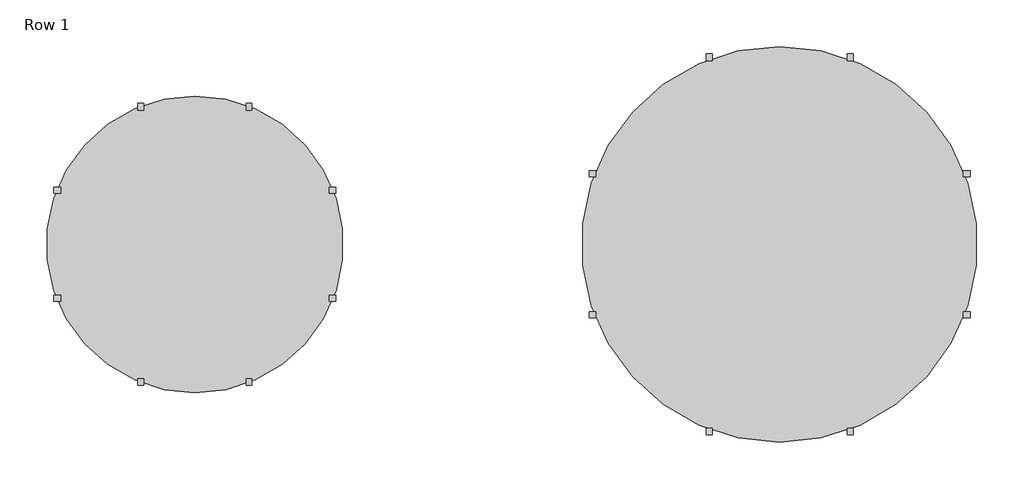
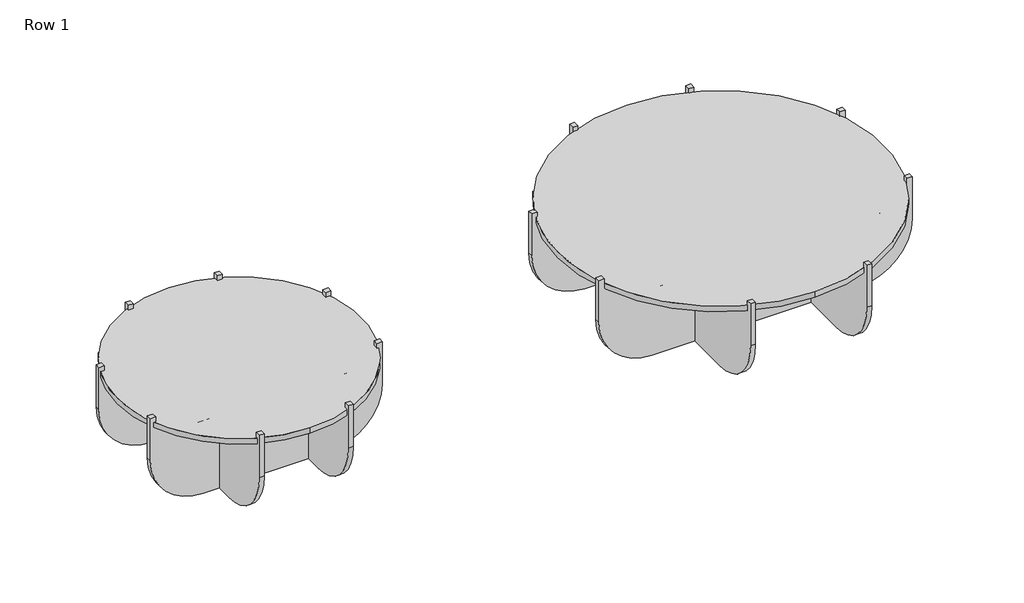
# One storey: 2 furniture elements.
"""IFC4 building model written with IfcOpenShell, lengths in millimetres."""

import ifcopenshell
import ifcopenshell.guid

model = None  # the IFC model being written
_history = None  # IfcOwnerHistory: only IFC2X3 demands one
_inside = {}  # id of a spatial element -> (the spatial element, [elements in it])
_under = {}  # id of a project, library or spatial element -> (it, [spatial elements below it])
_declared = {}  # id of a project -> (the project, [libraries it declares])
_typed = {}  # id of a type object -> (the type object, [elements of that type])
_made_of = {}  # id of a material, layer set ... -> (it, [elements and type objects made of it])


def new_model(schema):
    """Start an empty IFC model of exactly this schema.

    Asked for "IFC4X3", IfcOpenShell would pick the latest addendum, in which some entities
    have other attributes; the version numbers below select the first issue.
    IFC2X3 requires an IfcOwnerHistory on every rooted entity: one is made here for all.
    """
    global model, _history
    if schema == "IFC4X3":
        model = ifcopenshell.file(schema_version=(4, 3, 0, 0))
    else:
        model = ifcopenshell.file(schema=schema)
    _inside.clear()
    _under.clear()
    _declared.clear()
    _typed.clear()
    _made_of.clear()
    _history = None
    if model.schema == "IFC2X3":
        org = make("IfcOrganization", Name="unknown")
        user = make(
            "IfcPersonAndOrganization",
            ThePerson=make("IfcPerson", FamilyName="unknown"),
            TheOrganization=org,
        )
        app = make(
            "IfcApplication",
            ApplicationDeveloper=org,
            Version="unknown",
            ApplicationFullName="unknown",
            ApplicationIdentifier="unknown",
        )
        _history = make(
            "IfcOwnerHistory",
            OwningUser=user,
            OwningApplication=app,
            ChangeAction="ADDED",
            CreationDate=0,
        )
    return model


def make(cls, **values):
    """One entity of the class cls with the attributes given. An attribute that is None is left unset."""
    return model.create_entity(
        cls, **{name: value for name, value in values.items() if value is not None}
    )


def rooted(cls, **values):
    """An entity with a GlobalId (a new one), such as an element, a storey or a relation."""
    return make(cls, GlobalId=ifcopenshell.guid.new(), OwnerHistory=_history, **values)


def si_unit(unit_type, name, prefix=None):
    """IfcSIUnit, for example si_unit("LENGTHUNIT", "METRE", prefix="MILLI")."""
    return make("IfcSIUnit", UnitType=unit_type, Prefix=prefix, Name=name)


def assignment(units):
    """IfcUnitAssignment: the units of a project."""
    return None if units is None else make("IfcUnitAssignment", Units=units)


def point(xyz):
    """IfcCartesianPoint."""
    return None if xyz is None else make("IfcCartesianPoint", Coordinates=xyz)


def direction(xyz):
    """IfcDirection."""
    return None if xyz is None else make("IfcDirection", DirectionRatios=xyz)


def frame(location, z_axis=None, x_axis=None):
    """IfcAxis2Placement3D, a coordinate frame: its origin and axes. An axis left out is left unset."""
    return make(
        "IfcAxis2Placement3D",
        Location=point(location),
        Axis=direction(z_axis),
        RefDirection=direction(x_axis),
    )


def frame_2d(location, x_axis=None):
    """IfcAxis2Placement2D, a coordinate frame in the plane: its origin and x axis."""
    return make(
        "IfcAxis2Placement2D", Location=point(location), RefDirection=direction(x_axis)
    )


def origin():
    """The frame at (0, 0, 0) with its axes left unset."""
    return frame((0.0, 0.0, 0.0))


def origin_2d():
    """The frame at (0, 0) in the plane with its x axis left unset."""
    return frame_2d((0.0, 0.0))


def place(relative_to, where):
    """IfcLocalPlacement: puts the frame where relative to a parent placement (None: the world)."""
    return make(
        "IfcLocalPlacement", PlacementRelTo=relative_to, RelativePlacement=where
    )


def context(
    kind, dimensions, precision=None, world=None, true_north=None, identifier=None
):
    """IfcGeometricRepresentationContext, for example the 3D "Model" context."""
    return make(
        "IfcGeometricRepresentationContext",
        ContextIdentifier=identifier,
        ContextType=kind,
        CoordinateSpaceDimension=dimensions,
        Precision=precision,
        WorldCoordinateSystem=world,
        TrueNorth=true_north,
    )


def project(units=None, contexts=None):
    """IfcProject with its units and contexts."""
    return rooted(
        "IfcProject",
        Name="project",
        RepresentationContexts=contexts,
        UnitsInContext=assignment(units),
    )


def spatial(cls, under=None, at=None, **own):
    """A site, building, storey or space (cls), placed at a placement, below another one or the project."""
    s = rooted(cls, ObjectPlacement=at, **own)
    if under is not None:
        _under.setdefault(under.id(), (under, []))[1].append(s)
    return s


def polyline(points):
    """IfcPolyline through the points."""
    return make("IfcPolyline", Points=[point(p) for p in points])


def circle_curve(where, radius):
    """IfcCircle in the frame where."""
    return make("IfcCircle", Position=where, Radius=radius)


def trimmed(basis, trim1, trim2, sense, master):
    """IfcTrimmedCurve: the piece of a basis curve between two trims."""
    return make(
        "IfcTrimmedCurve",
        BasisCurve=basis,
        Trim1=trim1,
        Trim2=trim2,
        SenseAgreement=sense,
        MasterRepresentation=master,
    )


def segment(curve, same_sense, transition):
    """IfcCompositeCurveSegment."""
    return make(
        "IfcCompositeCurveSegment",
        Transition=transition,
        SameSense=same_sense,
        ParentCurve=curve,
    )


def composite_curve(segments, self_intersect=None):
    """IfcCompositeCurve: segments joined end to end."""
    return make("IfcCompositeCurve", Segments=segments, SelfIntersect=self_intersect)


def outline(outer, holes=None, kind="AREA"):
    """IfcArbitraryClosedProfileDef: a profile drawn as a closed curve; with holes, ...WithVoids."""
    if holes is None:
        return make("IfcArbitraryClosedProfileDef", ProfileType=kind, OuterCurve=outer)
    return make(
        "IfcArbitraryProfileDefWithVoids",
        ProfileType=kind,
        OuterCurve=outer,
        InnerCurves=holes,
    )


def extrude(swept, where, along, depth):
    """IfcExtrudedAreaSolid: the profile swept, set in the frame where, extruded along a direction by depth."""
    return make(
        "IfcExtrudedAreaSolid",
        SweptArea=swept,
        Position=where,
        ExtrudedDirection=direction(along),
        Depth=depth,
    )


def shape(context_of_items, identifier, shape_type, items):
    """IfcShapeRepresentation: the items that make up one representation, for example the "Body"."""
    return make(
        "IfcShapeRepresentation",
        ContextOfItems=context_of_items,
        RepresentationIdentifier=identifier,
        RepresentationType=shape_type,
        Items=items,
    )


def source(mapping_origin, context_of_items, identifier, shape_type, items):
    """IfcRepresentationMap: a shape defined once, which mapped items show again and again."""
    return make(
        "IfcRepresentationMap",
        MappingOrigin=mapping_origin,
        MappedRepresentation=shape(context_of_items, identifier, shape_type, items),
    )


def transform(
    local_origin,
    x_axis=None,
    y_axis=None,
    z_axis=None,
    scale=None,
    scale2=None,
    scale3=None,
    uniform=True,
):
    """IfcCartesianTransformationOperator3D, or its non-uniform kind. x_axis, y_axis, z_axis: its Axis1, 2, 3."""
    if uniform:
        return make(
            "IfcCartesianTransformationOperator3D",
            Axis1=direction(x_axis),
            Axis2=direction(y_axis),
            LocalOrigin=point(local_origin),
            Scale=scale,
            Axis3=direction(z_axis),
        )
    return make(
        "IfcCartesianTransformationOperator3DnonUniform",
        Axis1=direction(x_axis),
        Axis2=direction(y_axis),
        LocalOrigin=point(local_origin),
        Scale=scale,
        Axis3=direction(z_axis),
        Scale2=scale2,
        Scale3=scale3,
    )


def mapped(mapping_source, mapping_target):
    """IfcMappedItem: shows the shape of a source again, moved by a transform."""
    return make(
        "IfcMappedItem", MappingSource=mapping_source, MappingTarget=mapping_target
    )


def made_of(thing, what):
    """Note that an element or type object is made of a material, layer set ...; save() writes the relation."""
    if what is not None:
        _made_of.setdefault(what.id(), (what, []))[1].append(thing)
    return thing


def element(
    cls,
    number,
    at=None,
    inside=None,
    cuts=None,
    type_object=None,
    material=None,
    context=None,
    identifier="Body",
    shape_type=None,
    held_by="IfcProductDefinitionShape",
    body=None,
    shapes=None,
    **own,
):
    """One element of the class cls, such as IfcWall. Its Tag is "e" and its number.

    at: its placement. inside: the storey or other place that contains it. cuts: it is an
    opening in that element (IfcRelVoidsElement). A single representation is given by context,
    identifier, shape_type and body (its items); several are given by shapes. held_by: the class
    of the entity that holds the representations. save() writes the other relations.
    """
    e = rooted(cls, Tag="e%d" % number, ObjectPlacement=at, **own)
    if body is not None:
        shapes = [shape(context, identifier, shape_type, body)]
    if shapes is not None:
        e.Representation = make(held_by, Representations=shapes)
    if inside is not None:
        _inside.setdefault(inside.id(), (inside, []))[1].append(e)
    if cuts is not None:
        rooted(
            "IfcRelVoidsElement", RelatingBuildingElement=cuts, RelatedOpeningElement=e
        )
    if type_object is not None:
        _typed.setdefault(type_object.id(), (type_object, []))[1].append(e)
    return made_of(e, material)


def aggregate(whole, parts):
    """IfcRelAggregates: a whole, such as a stair, and the parts it consists of."""
    return rooted("IfcRelAggregates", RelatingObject=whole, RelatedObjects=parts)


def save(model, path):
    """Write the relations noted so far, then the file.

    IfcRelAggregates (storeys below a building ...), IfcRelContainedInSpatialStructure (elements
    in a storey), IfcRelDefinesByType, IfcRelAssociatesMaterial and IfcRelDeclares: one each for
    every whole, place, type object, material and project.
    """
    for whole, parts in _under.values():
        aggregate(whole, parts)
    for where, things in _inside.values():
        rooted(
            "IfcRelContainedInSpatialStructure",
            RelatedElements=things,
            RelatingStructure=where,
        )
    for kind, things in _typed.values():
        rooted("IfcRelDefinesByType", RelatedObjects=things, RelatingType=kind)
    for what, things in _made_of.values():
        rooted("IfcRelAssociatesMaterial", RelatedObjects=things, RelatingMaterial=what)
    for by, libraries in _declared.values():
        rooted("IfcRelDeclares", RelatingContext=by, RelatedDefinitions=libraries)
    model.write(path)


def furniture_b5d81c60(model_context):
    return source(origin(), model_context, "Body", "SweptSolid", [
        extrude(outline(composite_curve([segment(trimmed(circle_curve(origin_2d(), 600.0), [point((-600.0, 0.0))], [point((600.0, 0.0))], False, "CARTESIAN"), True, "CONTINUOUS"), segment(trimmed(circle_curve(origin_2d(), 600.0), [point((600.0, 0.0))], [point((-600.0, 0.0))], False, "CARTESIAN"), True, "CONTINUOUS")], self_intersect=False)), frame((0.0, 0.0, 320.0), z_axis=(0.0, 0.0, 1.0), x_axis=(1.0, 0.0, 0.0)), (0.0, 0.0, 1.0), 21.0),
        extrude(outline(composite_curve([segment(trimmed(circle_curve(frame_2d((-284.5, 318.3870185)), 8.5), [point((-284.5, 309.8870185))], [point((-293.0, 318.3870185))], False, "CARTESIAN"), True, "CONTINUOUS"), segment(polyline([(-293.0, 318.3870185), (-293.0, 320.0), (293.0, 320.0), (293.0, 318.3870185)]), True, "CONTINUOUS"), segment(trimmed(circle_curve(frame_2d((284.5, 318.3870185)), 8.5), [point((293.0, 318.3870185))], [point((284.5, 309.8870185))], False, "CARTESIAN"), True, "CONTINUOUS"), segment(polyline([(284.5, 309.8870185), (-284.5, 309.8870185)]), True, "CONTINUOUS")], self_intersect=False)), frame((382.4999892, 0.0, 0.0), z_axis=(1.0, 0.0, 0.0), x_axis=(0.0, 1.0, 0.0)), (0.0, 0.0, 1.0), 40.0000216),
        extrude(outline(composite_curve([segment(trimmed(circle_curve(frame_2d((318.3870185, 284.5)), 8.5), [point((309.8870185, 284.5))], [point((318.3870185, 293.0))], False, "CARTESIAN"), True, "CONTINUOUS"), segment(polyline([(318.3870185, 293.0), (320.0, 293.0), (320.0, -293.0), (318.3870185, -293.0)]), True, "CONTINUOUS"), segment(trimmed(circle_curve(frame_2d((318.3870185, -284.5)), 8.5), [point((318.3870185, -293.0))], [point((309.8870185, -284.5))], False, "CARTESIAN"), True, "CONTINUOUS"), segment(polyline([(309.8870185, -284.5), (309.8870185, 284.5)]), True, "CONTINUOUS")], self_intersect=False)), frame((0.0, -422.5000108, 0.0), z_axis=(0.0, 1.0, 0.0), x_axis=(0.0, 0.0, 1.0)), (0.0, 0.0, 1.0), 40.0000216),
        extrude(outline(composite_curve([segment(trimmed(circle_curve(frame_2d((318.3870185, 284.5)), 8.5), [point((309.8870185, 284.5))], [point((318.3870185, 293.0))], False, "CARTESIAN"), True, "CONTINUOUS"), segment(polyline([(318.3870185, 293.0), (320.0, 293.0), (320.0, -293.0), (318.3870185, -293.0)]), True, "CONTINUOUS"), segment(trimmed(circle_curve(frame_2d((318.3870185, -284.5)), 8.5), [point((318.3870185, -293.0))], [point((309.8870185, -284.5))], False, "CARTESIAN"), True, "CONTINUOUS"), segment(polyline([(309.8870185, -284.5), (309.8870185, 284.5)]), True, "CONTINUOUS")], self_intersect=False)), frame((0.0, 382.4999892, 0.0), z_axis=(0.0, 1.0, 0.0), x_axis=(0.0, 0.0, 1.0)), (0.0, 0.0, 1.0), 40.0000216),
        extrude(outline(composite_curve([segment(trimmed(circle_curve(frame_2d((-284.5, 318.3870185)), 8.5), [point((-284.5, 309.8870185))], [point((-293.0, 318.3870185))], False, "CARTESIAN"), True, "CONTINUOUS"), segment(polyline([(-293.0, 318.3870185), (-293.0, 320.0), (293.0, 320.0), (293.0, 318.3870185)]), True, "CONTINUOUS"), segment(trimmed(circle_curve(frame_2d((284.5, 318.3870185)), 8.5), [point((293.0, 318.3870185))], [point((284.5, 309.8870185))], False, "CARTESIAN"), True, "CONTINUOUS"), segment(polyline([(284.5, 309.8870185), (-284.5, 309.8870185)]), True, "CONTINUOUS")], self_intersect=False)), frame((-422.5000108, 0.0, 0.0), z_axis=(1.0, 0.0, 0.0), x_axis=(0.0, 1.0, 0.0)), (0.0, 0.0, 1.0), 40.0000216),
        extrude(outline(composite_curve([segment(trimmed(circle_curve(frame_2d((195.0, -382.5)), 195.0), [point((195.0, -577.5))], [point((0.0, -382.5))], False, "CARTESIAN"), True, "CONTINUOUS"), segment(polyline([(0.0, -382.5), (0.0, 382.5)]), True, "CONTINUOUS"), segment(trimmed(circle_curve(frame_2d((195.0, 382.5)), 195.0), [point((0.0, 382.5))], [point((195.0, 577.5))], False, "CARTESIAN"), True, "CONTINUOUS"), segment(polyline([(195.0, 577.5), (359.0, 577.5), (359.0, 557.5), (320.0, 557.5), (320.0, -557.5), (359.0, -557.5), (359.0, -577.5), (195.0, -577.5)]), True, "CONTINUOUS")], self_intersect=False)), frame((0.0, -223.0, 0.0), z_axis=(0.0, 1.0, 0.0), x_axis=(0.0, 0.0, 1.0)), (0.0, 0.0, 1.0), 18.0),
        extrude(outline(composite_curve([segment(trimmed(circle_curve(frame_2d((195.0, -382.5)), 195.0), [point((195.0, -577.5))], [point((0.0, -382.5))], False, "CARTESIAN"), True, "CONTINUOUS"), segment(polyline([(0.0, -382.5), (0.0, 382.5)]), True, "CONTINUOUS"), segment(trimmed(circle_curve(frame_2d((195.0, 382.5)), 195.0), [point((0.0, 382.5))], [point((195.0, 577.5))], False, "CARTESIAN"), True, "CONTINUOUS"), segment(polyline([(195.0, 577.5), (359.0, 577.5), (359.0, 557.5), (320.0, 557.5), (320.0, -557.5), (359.0, -557.5), (359.0, -577.5), (195.0, -577.5)]), True, "CONTINUOUS")], self_intersect=False)), frame((0.0, 205.0, 0.0), z_axis=(0.0, 1.0, 0.0), x_axis=(0.0, 0.0, 1.0)), (0.0, 0.0, 1.0), 18.0),
        extrude(outline(composite_curve([segment(trimmed(circle_curve(frame_2d((382.5, 195.0)), 195.0), [point((577.5, 195.0))], [point((382.5, 0.0))], False, "CARTESIAN"), True, "CONTINUOUS"), segment(polyline([(382.5, 0.0), (-382.5, 0.0)]), True, "CONTINUOUS"), segment(trimmed(circle_curve(frame_2d((-382.5, 195.0)), 195.0), [point((-382.5, 0.0))], [point((-577.5, 195.0))], False, "CARTESIAN"), True, "CONTINUOUS"), segment(polyline([(-577.5, 195.0), (-577.5, 359.0), (-557.5, 359.0), (-557.5, 320.0), (557.5, 320.0), (557.5, 359.0), (577.5, 359.0), (577.5, 195.0)]), True, "CONTINUOUS")], self_intersect=False)), frame((205.0, 0.0, 0.0), z_axis=(1.0, 0.0, 0.0), x_axis=(0.0, 1.0, 0.0)), (0.0, 0.0, 1.0), 18.0),
        extrude(outline(composite_curve([segment(trimmed(circle_curve(frame_2d((382.5, 195.0)), 195.0), [point((577.5, 195.0))], [point((382.5, 0.0))], False, "CARTESIAN"), True, "CONTINUOUS"), segment(polyline([(382.5, 0.0), (-382.5, 0.0)]), True, "CONTINUOUS"), segment(trimmed(circle_curve(frame_2d((-382.5, 195.0)), 195.0), [point((-382.5, 0.0))], [point((-577.5, 195.0))], False, "CARTESIAN"), True, "CONTINUOUS"), segment(polyline([(-577.5, 195.0), (-577.5, 359.0), (-557.5, 359.0), (-557.5, 320.0), (557.5, 320.0), (557.5, 359.0), (577.5, 359.0), (577.5, 195.0)]), True, "CONTINUOUS")], self_intersect=False)), frame((-223.0, 0.0, 0.0), z_axis=(1.0, 0.0, 0.0), x_axis=(0.0, 1.0, 0.0)), (0.0, 0.0, 1.0), 18.0),
    ])


def furniture_caf5edef(model_context):
    return source(origin(), model_context, "Body", "SweptSolid", [
        extrude(outline(composite_curve([segment(trimmed(circle_curve(frame_2d((-204.0, 318.3870185)), 8.5), [point((-204.0, 309.8870185))], [point((-212.5, 318.3870185))], False, "CARTESIAN"), True, "CONTINUOUS"), segment(polyline([(-212.5, 318.3870185), (-212.5, 320.0), (212.5, 320.0), (212.5, 318.3870185)]), True, "CONTINUOUS"), segment(trimmed(circle_curve(frame_2d((204.0, 318.3870185)), 8.5), [point((212.5, 318.3870185))], [point((204.0, 309.8870185))], False, "CARTESIAN"), True, "CONTINUOUS"), segment(polyline([(204.0, 309.8870185), (-204.0, 309.8870185)]), True, "CONTINUOUS")], self_intersect=False)), frame((232.4999784, 0.0, 0.0), z_axis=(1.0, 0.0, 0.0), x_axis=(0.0, 1.0, 0.0)), (0.0, 0.0, 1.0), 40.0000216),
        extrude(outline(composite_curve([segment(trimmed(circle_curve(frame_2d((318.3870185, 204.0)), 8.5), [point((309.8870185, 204.0))], [point((318.3870185, 212.5))], False, "CARTESIAN"), True, "CONTINUOUS"), segment(polyline([(318.3870185, 212.5), (320.0, 212.5), (320.0, -212.5), (318.3870185, -212.5)]), True, "CONTINUOUS"), segment(trimmed(circle_curve(frame_2d((318.3870185, -204.0)), 8.5), [point((318.3870185, -212.5))], [point((309.8870185, -204.0))], False, "CARTESIAN"), True, "CONTINUOUS"), segment(polyline([(309.8870185, -204.0), (309.8870185, 204.0)]), True, "CONTINUOUS")], self_intersect=False)), frame((0.0, -272.5, 0.0), z_axis=(0.0, 1.0, 0.0), x_axis=(0.0, 0.0, 1.0)), (0.0, 0.0, 1.0), 40.0000216),
        extrude(outline(composite_curve([segment(trimmed(circle_curve(frame_2d((318.3870185, 204.0)), 8.5), [point((309.8870185, 204.0))], [point((318.3870185, 212.5))], False, "CARTESIAN"), True, "CONTINUOUS"), segment(polyline([(318.3870185, 212.5), (320.0, 212.5), (320.0, -212.5), (318.3870185, -212.5)]), True, "CONTINUOUS"), segment(trimmed(circle_curve(frame_2d((318.3870185, -204.0)), 8.5), [point((318.3870185, -212.5))], [point((309.8870185, -204.0))], False, "CARTESIAN"), True, "CONTINUOUS"), segment(polyline([(309.8870185, -204.0), (309.8870185, 204.0)]), True, "CONTINUOUS")], self_intersect=False)), frame((0.0, 232.4999784, 0.0), z_axis=(0.0, 1.0, 0.0), x_axis=(0.0, 0.0, 1.0)), (0.0, 0.0, 1.0), 40.0000216),
        extrude(outline(composite_curve([segment(trimmed(circle_curve(frame_2d((-204.0, 318.3870185)), 8.5), [point((-204.0, 309.8870185))], [point((-212.5, 318.3870185))], False, "CARTESIAN"), True, "CONTINUOUS"), segment(polyline([(-212.5, 318.3870185), (-212.5, 320.0), (212.5, 320.0), (212.5, 318.3870185)]), True, "CONTINUOUS"), segment(trimmed(circle_curve(frame_2d((204.0, 318.3870185)), 8.5), [point((212.5, 318.3870185))], [point((204.0, 309.8870185))], False, "CARTESIAN"), True, "CONTINUOUS"), segment(polyline([(204.0, 309.8870185), (-204.0, 309.8870185)]), True, "CONTINUOUS")], self_intersect=False)), frame((-272.5, 0.0, 0.0), z_axis=(1.0, 0.0, 0.0), x_axis=(0.0, 1.0, 0.0)), (0.0, 0.0, 1.0), 40.0000216),
        extrude(outline(composite_curve([segment(polyline([(407.5, 320.0), (407.5, 359.0), (427.5, 359.0), (427.5, 195.0)]), True, "CONTINUOUS"), segment(trimmed(circle_curve(frame_2d((232.5, 195.0)), 195.0), [point((427.5, 195.0))], [point((232.5, 0.0))], False, "CARTESIAN"), True, "CONTINUOUS"), segment(polyline([(232.5, 0.0), (-232.5, 0.0)]), True, "CONTINUOUS"), segment(trimmed(circle_curve(frame_2d((-232.5, 195.0)), 195.0), [point((-232.5, 0.0))], [point((-427.5, 195.0))], False, "CARTESIAN"), True, "CONTINUOUS"), segment(polyline([(-427.5, 195.0), (-427.5, 359.0), (-407.5, 359.0), (-407.5, 320.0), (407.5, 320.0)]), True, "CONTINUOUS")], self_intersect=False)), frame((155.0, 0.0, 0.0), z_axis=(1.0, 0.0, 0.0), x_axis=(0.0, 1.0, 0.0)), (0.0, 0.0, 1.0), 18.0),
        extrude(outline(composite_curve([segment(polyline([(407.5, 320.0), (407.5, 359.0), (427.5, 359.0), (427.5, 195.0)]), True, "CONTINUOUS"), segment(trimmed(circle_curve(frame_2d((232.5, 195.0)), 195.0), [point((427.5, 195.0))], [point((232.5, 0.0))], False, "CARTESIAN"), True, "CONTINUOUS"), segment(polyline([(232.5, 0.0), (-232.5, 0.0)]), True, "CONTINUOUS"), segment(trimmed(circle_curve(frame_2d((-232.5, 195.0)), 195.0), [point((-232.5, 0.0))], [point((-427.5, 195.0))], False, "CARTESIAN"), True, "CONTINUOUS"), segment(polyline([(-427.5, 195.0), (-427.5, 359.0), (-407.5, 359.0), (-407.5, 320.0), (407.5, 320.0)]), True, "CONTINUOUS")], self_intersect=False)), frame((-173.0, 0.0, 0.0), z_axis=(1.0, 0.0, 0.0), x_axis=(0.0, 1.0, 0.0)), (0.0, 0.0, 1.0), 18.0),
        extrude(outline(composite_curve([segment(polyline([(320.0, -407.5), (359.0, -407.5), (359.0, -427.5), (195.0, -427.5)]), True, "CONTINUOUS"), segment(trimmed(circle_curve(frame_2d((195.0, -232.5)), 195.0), [point((195.0, -427.5))], [point((0.0, -232.5))], False, "CARTESIAN"), True, "CONTINUOUS"), segment(polyline([(0.0, -232.5), (0.0, 232.5)]), True, "CONTINUOUS"), segment(trimmed(circle_curve(frame_2d((195.0, 232.5)), 195.0), [point((0.0, 232.5))], [point((195.0, 427.5))], False, "CARTESIAN"), True, "CONTINUOUS"), segment(polyline([(195.0, 427.5), (359.0, 427.5), (359.0, 407.5), (320.0, 407.5), (320.0, -407.5)]), True, "CONTINUOUS")], self_intersect=False)), frame((0.0, 155.0, 0.0), z_axis=(0.0, 1.0, 0.0), x_axis=(0.0, 0.0, 1.0)), (0.0, 0.0, 1.0), 18.0),
        extrude(outline(composite_curve([segment(polyline([(320.0, -407.5), (359.0, -407.5), (359.0, -427.5), (195.0, -427.5)]), True, "CONTINUOUS"), segment(trimmed(circle_curve(frame_2d((195.0, -232.5)), 195.0), [point((195.0, -427.5))], [point((0.0, -232.5))], False, "CARTESIAN"), True, "CONTINUOUS"), segment(polyline([(0.0, -232.5), (0.0, 232.5)]), True, "CONTINUOUS"), segment(trimmed(circle_curve(frame_2d((195.0, 232.5)), 195.0), [point((0.0, 232.5))], [point((195.0, 427.5))], False, "CARTESIAN"), True, "CONTINUOUS"), segment(polyline([(195.0, 427.5), (359.0, 427.5), (359.0, 407.5), (320.0, 407.5), (320.0, -407.5)]), True, "CONTINUOUS")], self_intersect=False)), frame((0.0, -173.0, 0.0), z_axis=(0.0, 1.0, 0.0), x_axis=(0.0, 0.0, 1.0)), (0.0, 0.0, 1.0), 18.0),
        extrude(outline(composite_curve([segment(trimmed(circle_curve(origin_2d(), 450.0), [point((-450.0, 0.0))], [point((450.0, 0.0))], False, "CARTESIAN"), True, "CONTINUOUS"), segment(trimmed(circle_curve(origin_2d(), 450.0), [point((450.0, 0.0))], [point((-450.0, 0.0))], False, "CARTESIAN"), True, "CONTINUOUS")], self_intersect=False)), frame((0.0, 0.0, 320.0), z_axis=(0.0, 0.0, 1.0), x_axis=(1.0, 0.0, 0.0)), (0.0, 0.0, 1.0), 21.0),
    ])


model = new_model("IFC4")

# Units and contexts
model_context = context("Model", 3, world=origin())
ifc_project = project(units=[si_unit("LENGTHUNIT", "METRE", prefix="MILLI")], contexts=[model_context])

# Site, building, storey
site = spatial("IfcSite", under=ifc_project)
building = spatial("IfcBuilding", under=site)
storey = spatial("IfcBuildingStorey", under=building, Name="Row 1", Elevation=2000.0)

# Furniture
placement = place(None, origin())
furniture_shape = furniture_b5d81c60(model_context)
element("IfcFurniture", 1, ObjectType="Lundbergs Möbler - Funghi Piccolo - Coffee Table - Round - Ø120 - H35 : Lundbergs Möbler - Funghi Piccolo - Coffee Table - Round - Ø120 - H35", at=placement, inside=storey, context=model_context, shape_type="MappedRepresentation", body=[
    mapped(furniture_shape, transform((-9555.554479, 713.4424658, 2000.0), x_axis=(0.0, -1.0, 0.0), y_axis=(1.0, 0.0, 0.0), z_axis=(0.0, 0.0, 1.0))),
])
furniture_2_shape = furniture_caf5edef(model_context)
element("IfcFurniture", 2, ObjectType="Lundbergs Möbler - Funghi Piccolo - Coffee Table - Round - Ø90 - H35 : Lundbergs Möbler - Funghi Piccolo - Coffee Table - Round - Ø90 - H35", at=placement, inside=storey, context=model_context, shape_type="MappedRepresentation", body=[
    mapped(furniture_2_shape, transform((-11328.8878123, 713.4424658, 2000.0), x_axis=(0.0, -1.0, 0.0), y_axis=(1.0, 0.0, 0.0), z_axis=(0.0, 0.0, 1.0))),
])

save(model, "model.ifc")
